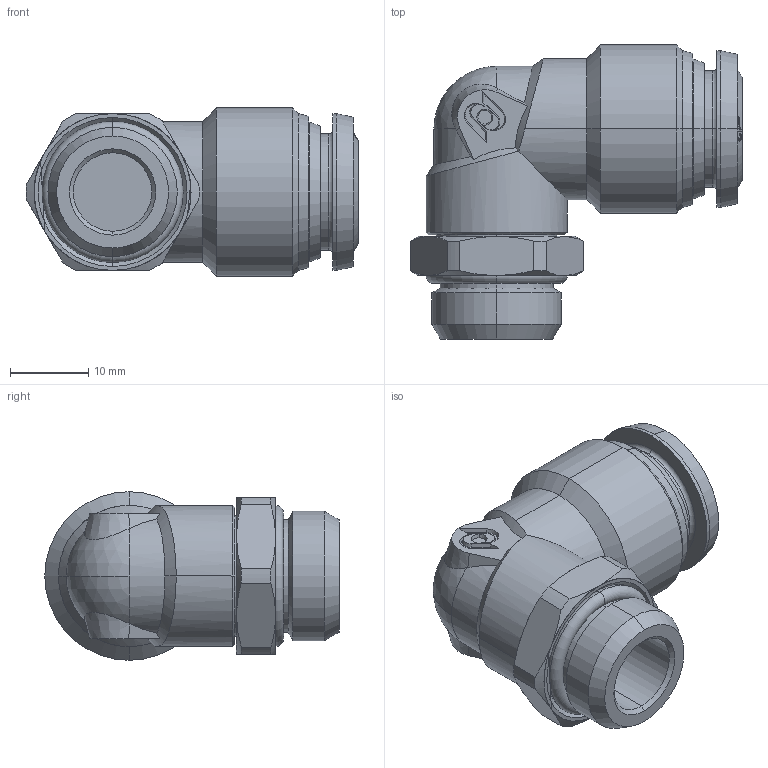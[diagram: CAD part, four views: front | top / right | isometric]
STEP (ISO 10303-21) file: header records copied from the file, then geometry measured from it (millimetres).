
FILE_DESCRIPTION (( 'STEP AP214' ), '1' );
FILE_NAME ('5011600017.step', '2012-10-01T16:45:42', ( '' ), ( '' ), 'SwSTEP 2.0', 'SolidWorks 2012', '' );
FILE_SCHEMA (( 'AUTOMOTIVE_DESIGN' ));
Length unit declared in the file: millimetre
Products named in the file (1): 5011600017
Bounding box: 42.35 x 37.55 x 21.5 mm (x, y, z)
Volume: 13832.1 mm3; surface area: 5565.1 mm2
Topology: 2 solids, 2 shells, 228 faces, 562 edges, 357 vertices
Faces by surface type: cone 67, bspline 58, plane 53, cylinder 34, torus 14, sphere 2
Entity records: 9917 total; most frequent: CARTESIAN_POINT 5027, ORIENTED_EDGE 1124, DIRECTION 813, EDGE_CURVE 562, VERTEX_POINT 357, AXIS2_PLACEMENT_3D 336, EDGE_LOOP 249, B_SPLINE_CURVE_WITH_KNOTS 246
